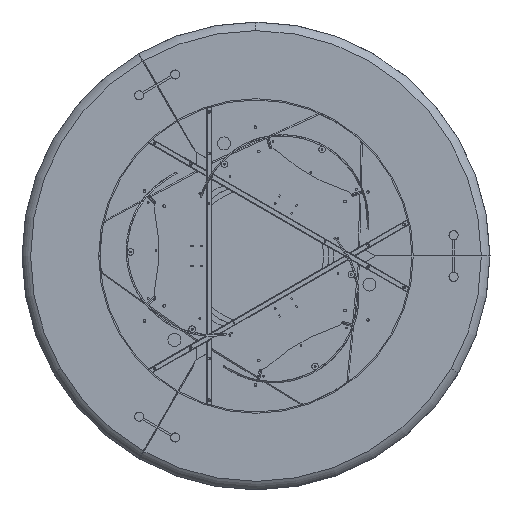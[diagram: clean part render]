
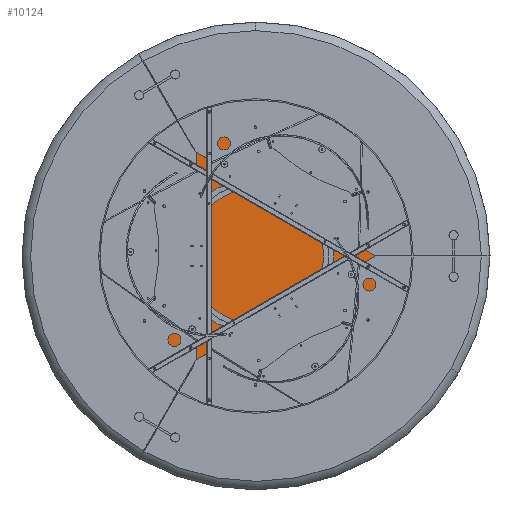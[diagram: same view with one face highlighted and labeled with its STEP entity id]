
A CAD part, front view. The second image highlights one B-rep face of the part: STEP entity #10124.
In plain terms, the highlighted planar face has unit normal (0, -1, 0).
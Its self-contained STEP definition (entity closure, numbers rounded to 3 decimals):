
#146 = CARTESIAN_POINT ( 'NONE',  ( 0., 0., 0. ) ) ;
#283 = DIRECTION ( 'NONE',  ( 0., -1., 0. ) ) ;
#770 = AXIS2_PLACEMENT_3D ( 'NONE', #146, #283, #2059 ) ;
#845 = AXIS2_PLACEMENT_3D ( 'NONE', #22008, #22160, #4633 ) ;
#1352 = CARTESIAN_POINT ( 'NONE',  ( 0., 0., 0. ) ) ;
#2059 = DIRECTION ( 'NONE',  ( 0., 0., 1. ) ) ;
#3574 = FACE_OUTER_BOUND ( 'NONE', #3626, .T. ) ;
#3626 = EDGE_LOOP ( 'NONE', ( #8058, #28708 ) ) ;
#4633 = DIRECTION ( 'NONE',  ( 0., 0., 1. ) ) ;
#7487 = EDGE_CURVE ( 'NONE', #12400, #11399, #18280, .T. ) ;
#7634 = CARTESIAN_POINT ( 'NONE',  ( 0., 0., -499.5 ) ) ;
#7679 = AXIS2_PLACEMENT_3D ( 'NONE', #1352, #19334, #15073 ) ;
#7901 = CARTESIAN_POINT ( 'NONE',  ( 0., 0., 499.5 ) ) ;
#8058 = ORIENTED_EDGE ( 'NONE', *, *, #15611, .T. ) ;
#10124 = ADVANCED_FACE ( 'NONE', ( #3574 ), #14488, .F. ) ;
#11399 = VERTEX_POINT ( 'NONE', #7901 ) ;
#12400 = VERTEX_POINT ( 'NONE', #7634 ) ;
#14488 = PLANE ( 'NONE',  #7679 ) ;
#15073 = DIRECTION ( 'NONE',  ( 0., 0., 1. ) ) ;
#15611 = EDGE_CURVE ( 'NONE', #11399, #12400, #24777, .T. ) ;
#18280 = CIRCLE ( 'NONE', #845, 499.5 ) ;
#19334 = DIRECTION ( 'NONE',  ( 0., 1., 0. ) ) ;
#22008 = CARTESIAN_POINT ( 'NONE',  ( 0., 0., 0. ) ) ;
#22160 = DIRECTION ( 'NONE',  ( 0., -1., 0. ) ) ;
#24777 = CIRCLE ( 'NONE', #770, 499.5 ) ;
#28708 = ORIENTED_EDGE ( 'NONE', *, *, #7487, .T. ) ;
